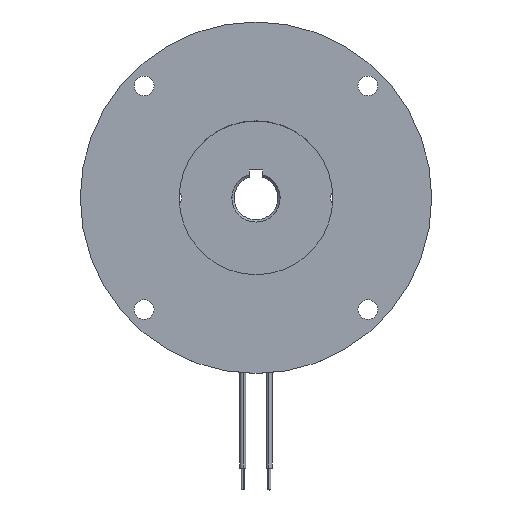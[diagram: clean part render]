
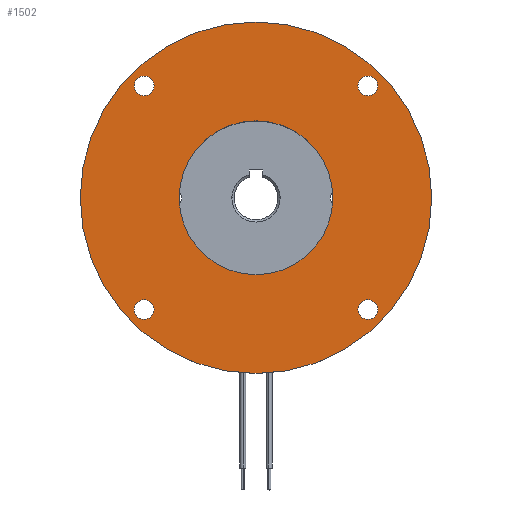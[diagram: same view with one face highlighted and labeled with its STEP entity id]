
A CAD part, top view. The second image highlights one B-rep face of the part: STEP entity #1502.
In plain terms, the highlighted planar face has unit normal (0, 0, 1).
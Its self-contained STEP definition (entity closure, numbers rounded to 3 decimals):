
#121 = DIRECTION ( 'NONE',  ( 0., 0., -1. ) ) ;
#160 = CARTESIAN_POINT ( 'NONE',  ( 27.706, -25.456, 0. ) ) ;
#253 = DIRECTION ( 'NONE',  ( 0., 0., -1. ) ) ;
#274 = EDGE_LOOP ( 'NONE', ( #481, #2654 ) ) ;
#340 = DIRECTION ( 'NONE',  ( -1., 0., 0. ) ) ;
#416 = CARTESIAN_POINT ( 'NONE',  ( 0., 0., 0. ) ) ;
#481 = ORIENTED_EDGE ( 'NONE', *, *, #2985, .F. ) ;
#536 = CIRCLE ( 'NONE', #3061, 40. ) ;
#537 = EDGE_LOOP ( 'NONE', ( #7968, #6210 ) ) ;
#621 = VERTEX_POINT ( 'NONE', #1066 ) ;
#649 = FACE_BOUND ( 'NONE', #2408, .T. ) ;
#818 = DIRECTION ( 'NONE',  ( 0., 0., -1. ) ) ;
#843 = ORIENTED_EDGE ( 'NONE', *, *, #3505, .T. ) ;
#856 = CIRCLE ( 'NONE', #3937, 2.25 ) ;
#904 = CARTESIAN_POINT ( 'NONE',  ( 27.706, 25.456, 0. ) ) ;
#916 = DIRECTION ( 'NONE',  ( 0., 0., -1. ) ) ;
#980 = CARTESIAN_POINT ( 'NONE',  ( 0., 0., 0. ) ) ;
#1066 = CARTESIAN_POINT ( 'NONE',  ( -27.706, 25.456, 0. ) ) ;
#1088 = CARTESIAN_POINT ( 'NONE',  ( 17.5, 0., 0. ) ) ;
#1146 = EDGE_CURVE ( 'NONE', #5998, #4613, #2028, .T. ) ;
#1188 = AXIS2_PLACEMENT_3D ( 'NONE', #3296, #121, #7735 ) ;
#1225 = FACE_BOUND ( 'NONE', #2945, .T. ) ;
#1387 = ORIENTED_EDGE ( 'NONE', *, *, #4520, .T. ) ;
#1481 = CIRCLE ( 'NONE', #4812, 17.5 ) ;
#1502 = ADVANCED_FACE ( 'NONE', ( #5770, #1886, #5688, #649, #6972, #1225 ), #1965, .F. ) ;
#1588 = DIRECTION ( 'NONE',  ( -1., 0., 0. ) ) ;
#1647 = CIRCLE ( 'NONE', #4571, 2.25 ) ;
#1663 = CARTESIAN_POINT ( 'NONE',  ( 23.206, -25.456, 0. ) ) ;
#1714 = CARTESIAN_POINT ( 'NONE',  ( -25.456, -25.456, 0. ) ) ;
#1760 = DIRECTION ( 'NONE',  ( -1., 0., 0. ) ) ;
#1885 = VERTEX_POINT ( 'NONE', #5526 ) ;
#1886 = FACE_BOUND ( 'NONE', #4391, .T. ) ;
#1965 = PLANE ( 'NONE',  #2477 ) ;
#2028 = CIRCLE ( 'NONE', #5098, 2.25 ) ;
#2220 = CARTESIAN_POINT ( 'NONE',  ( 23.206, 25.456, 0. ) ) ;
#2311 = DIRECTION ( 'NONE',  ( -1., 0., 0. ) ) ;
#2350 = EDGE_CURVE ( 'NONE', #2388, #5641, #7985, .T. ) ;
#2388 = VERTEX_POINT ( 'NONE', #904 ) ;
#2408 = EDGE_LOOP ( 'NONE', ( #1387, #4369 ) ) ;
#2449 = DIRECTION ( 'NONE',  ( -1., 0., 0. ) ) ;
#2477 = AXIS2_PLACEMENT_3D ( 'NONE', #3819, #5213, #4402 ) ;
#2654 = ORIENTED_EDGE ( 'NONE', *, *, #7304, .F. ) ;
#2945 = EDGE_LOOP ( 'NONE', ( #7039, #843 ) ) ;
#2985 = EDGE_CURVE ( 'NONE', #4361, #6757, #536, .T. ) ;
#3013 = DIRECTION ( 'NONE',  ( 0., 0., -1. ) ) ;
#3061 = AXIS2_PLACEMENT_3D ( 'NONE', #980, #7237, #6618 ) ;
#3089 = EDGE_CURVE ( 'NONE', #5641, #2388, #7708, .T. ) ;
#3133 = AXIS2_PLACEMENT_3D ( 'NONE', #7867, #6581, #6623 ) ;
#3291 = AXIS2_PLACEMENT_3D ( 'NONE', #3324, #5991, #7729 ) ;
#3296 = CARTESIAN_POINT ( 'NONE',  ( 25.456, 25.456, 0. ) ) ;
#3324 = CARTESIAN_POINT ( 'NONE',  ( -25.456, 25.456, 0. ) ) ;
#3437 = ORIENTED_EDGE ( 'NONE', *, *, #1146, .T. ) ;
#3505 = EDGE_CURVE ( 'NONE', #5582, #1885, #1481, .T. ) ;
#3646 = CARTESIAN_POINT ( 'NONE',  ( -25.456, 25.456, 0. ) ) ;
#3688 = CARTESIAN_POINT ( 'NONE',  ( 0., 0., 0. ) ) ;
#3819 = CARTESIAN_POINT ( 'NONE',  ( 0., 40., 0. ) ) ;
#3937 = AXIS2_PLACEMENT_3D ( 'NONE', #4296, #6822, #2311 ) ;
#4007 = CARTESIAN_POINT ( 'NONE',  ( -23.206, -25.456, 0. ) ) ;
#4057 = VERTEX_POINT ( 'NONE', #4007 ) ;
#4296 = CARTESIAN_POINT ( 'NONE',  ( -25.456, -25.456, 0. ) ) ;
#4361 = VERTEX_POINT ( 'NONE', #7963 ) ;
#4369 = ORIENTED_EDGE ( 'NONE', *, *, #7426, .T. ) ;
#4391 = EDGE_LOOP ( 'NONE', ( #3437, #6306 ) ) ;
#4402 = DIRECTION ( 'NONE',  ( -1., 0., 0. ) ) ;
#4520 = EDGE_CURVE ( 'NONE', #621, #5633, #7672, .T. ) ;
#4571 = AXIS2_PLACEMENT_3D ( 'NONE', #1714, #916, #1588 ) ;
#4596 = ORIENTED_EDGE ( 'NONE', *, *, #2350, .T. ) ;
#4600 = CARTESIAN_POINT ( 'NONE',  ( 25.456, -25.456, 0. ) ) ;
#4613 = VERTEX_POINT ( 'NONE', #160 ) ;
#4678 = AXIS2_PLACEMENT_3D ( 'NONE', #5239, #818, #5288 ) ;
#4812 = AXIS2_PLACEMENT_3D ( 'NONE', #6180, #3013, #1760 ) ;
#5078 = VERTEX_POINT ( 'NONE', #6565 ) ;
#5098 = AXIS2_PLACEMENT_3D ( 'NONE', #4600, #5206, #7128 ) ;
#5126 = CIRCLE ( 'NONE', #3133, 2.25 ) ;
#5206 = DIRECTION ( 'NONE',  ( 0., 0., -1. ) ) ;
#5213 = DIRECTION ( 'NONE',  ( 0., 0., -1. ) ) ;
#5239 = CARTESIAN_POINT ( 'NONE',  ( 25.456, 25.456, 0. ) ) ;
#5288 = DIRECTION ( 'NONE',  ( -1., 0., 0. ) ) ;
#5399 = AXIS2_PLACEMENT_3D ( 'NONE', #3646, #6300, #8035 ) ;
#5526 = CARTESIAN_POINT ( 'NONE',  ( -17.5, 0., 0. ) ) ;
#5582 = VERTEX_POINT ( 'NONE', #1088 ) ;
#5583 = EDGE_CURVE ( 'NONE', #5078, #4057, #1647, .T. ) ;
#5633 = VERTEX_POINT ( 'NONE', #6632 ) ;
#5641 = VERTEX_POINT ( 'NONE', #2220 ) ;
#5688 = FACE_BOUND ( 'NONE', #537, .T. ) ;
#5770 = FACE_BOUND ( 'NONE', #6040, .T. ) ;
#5991 = DIRECTION ( 'NONE',  ( 0., 0., -1. ) ) ;
#5998 = VERTEX_POINT ( 'NONE', #1663 ) ;
#6040 = EDGE_LOOP ( 'NONE', ( #7870, #4596 ) ) ;
#6180 = CARTESIAN_POINT ( 'NONE',  ( 0., 0., 0. ) ) ;
#6186 = CIRCLE ( 'NONE', #5399, 2.25 ) ;
#6210 = ORIENTED_EDGE ( 'NONE', *, *, #8129, .T. ) ;
#6300 = DIRECTION ( 'NONE',  ( 0., 0., -1. ) ) ;
#6306 = ORIENTED_EDGE ( 'NONE', *, *, #7706, .T. ) ;
#6565 = CARTESIAN_POINT ( 'NONE',  ( -27.706, -25.456, 0. ) ) ;
#6581 = DIRECTION ( 'NONE',  ( 0., 0., -1. ) ) ;
#6618 = DIRECTION ( 'NONE',  ( -1., 0., 0. ) ) ;
#6623 = DIRECTION ( 'NONE',  ( -1., 0., 0. ) ) ;
#6632 = CARTESIAN_POINT ( 'NONE',  ( -23.206, 25.456, 0. ) ) ;
#6719 = CIRCLE ( 'NONE', #7515, 17.5 ) ;
#6757 = VERTEX_POINT ( 'NONE', #7444 ) ;
#6822 = DIRECTION ( 'NONE',  ( 0., 0., -1. ) ) ;
#6972 = FACE_OUTER_BOUND ( 'NONE', #274, .T. ) ;
#7039 = ORIENTED_EDGE ( 'NONE', *, *, #7520, .T. ) ;
#7128 = DIRECTION ( 'NONE',  ( -1., 0., 0. ) ) ;
#7237 = DIRECTION ( 'NONE',  ( 0., 0., -1. ) ) ;
#7246 = AXIS2_PLACEMENT_3D ( 'NONE', #416, #253, #340 ) ;
#7304 = EDGE_CURVE ( 'NONE', #6757, #4361, #7775, .T. ) ;
#7426 = EDGE_CURVE ( 'NONE', #5633, #621, #6186, .T. ) ;
#7444 = CARTESIAN_POINT ( 'NONE',  ( 40., 0., 0. ) ) ;
#7515 = AXIS2_PLACEMENT_3D ( 'NONE', #3688, #8148, #2449 ) ;
#7520 = EDGE_CURVE ( 'NONE', #1885, #5582, #6719, .T. ) ;
#7672 = CIRCLE ( 'NONE', #3291, 2.25 ) ;
#7706 = EDGE_CURVE ( 'NONE', #4613, #5998, #5126, .T. ) ;
#7708 = CIRCLE ( 'NONE', #4678, 2.25 ) ;
#7729 = DIRECTION ( 'NONE',  ( -1., 0., 0. ) ) ;
#7735 = DIRECTION ( 'NONE',  ( -1., 0., 0. ) ) ;
#7775 = CIRCLE ( 'NONE', #7246, 40. ) ;
#7867 = CARTESIAN_POINT ( 'NONE',  ( 25.456, -25.456, 0. ) ) ;
#7870 = ORIENTED_EDGE ( 'NONE', *, *, #3089, .T. ) ;
#7963 = CARTESIAN_POINT ( 'NONE',  ( -40., 0., 0. ) ) ;
#7968 = ORIENTED_EDGE ( 'NONE', *, *, #5583, .T. ) ;
#7985 = CIRCLE ( 'NONE', #1188, 2.25 ) ;
#8035 = DIRECTION ( 'NONE',  ( -1., 0., 0. ) ) ;
#8129 = EDGE_CURVE ( 'NONE', #4057, #5078, #856, .T. ) ;
#8148 = DIRECTION ( 'NONE',  ( 0., 0., -1. ) ) ;
